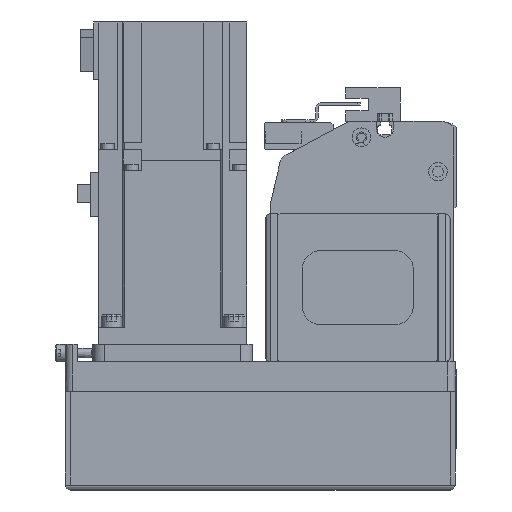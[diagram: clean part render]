
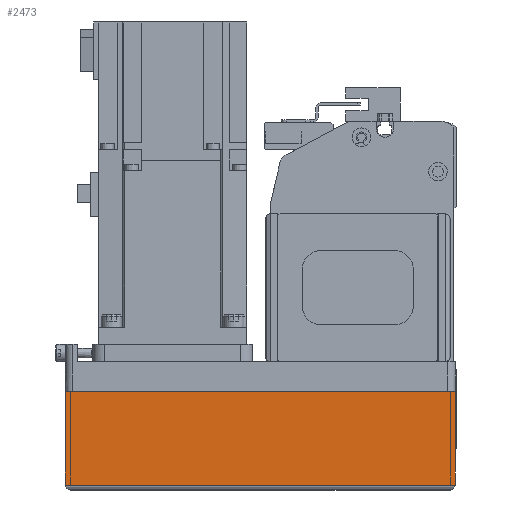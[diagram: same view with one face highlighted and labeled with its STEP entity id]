
A CAD part, left-side view. The second image highlights one B-rep face of the part: STEP entity #2473.
In plain terms, the highlighted planar face has unit normal (-1, 0, 0) as drawn and (0, -1, 0) by its records, which use the part's own axes.
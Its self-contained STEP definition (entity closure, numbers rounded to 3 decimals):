
#2473 = ADVANCED_FACE( '', ( #5541 ), #5542, .T. );
#5541 = FACE_OUTER_BOUND( '', #9220, .T. );
#5542 = PLANE( '', #9221 );
#9220 = EDGE_LOOP( '', ( #16332, #16333, #16334, #16335 ) );
#9221 = AXIS2_PLACEMENT_3D( '', #16336, #16337, #16338 );
#16332 = ORIENTED_EDGE( '', *, *, #23238, .F. );
#16333 = ORIENTED_EDGE( '', *, *, #23239, .F. );
#16334 = ORIENTED_EDGE( '', *, *, #23240, .T. );
#16335 = ORIENTED_EDGE( '', *, *, #22002, .T. );
#16336 = CARTESIAN_POINT( '', ( -158., -39., -12.1 ) );
#16337 = DIRECTION( '', ( 0., -1., 0. ) );
#16338 = DIRECTION( '', ( 0., 0., -1. ) );
#22002 = EDGE_CURVE( '', #26331, #26800, #26802, .T. );
#23238 = EDGE_CURVE( '', #27027, #26800, #28627, .T. );
#23239 = EDGE_CURVE( '', #28350, #27027, #28628, .T. );
#23240 = EDGE_CURVE( '', #28350, #26331, #28629, .T. );
#26331 = VERTEX_POINT( '', #33254 );
#26800 = VERTEX_POINT( '', #33957 );
#26802 = LINE( '', #33959, #33960 );
#27027 = VERTEX_POINT( '', #34265 );
#28350 = VERTEX_POINT( '', #36496 );
#28627 = LINE( '', #36895, #36896 );
#28628 = LINE( '', #36897, #36898 );
#28629 = LINE( '', #36899, #36900 );
#33254 = CARTESIAN_POINT( '', ( -158., -39., -50. ) );
#33957 = CARTESIAN_POINT( '', ( 0., -39., -50. ) );
#33959 = CARTESIAN_POINT( '', ( -158., -39., -50. ) );
#33960 = VECTOR( '', #40368, 1000. );
#34265 = CARTESIAN_POINT( '', ( 0., -39., -12.1 ) );
#36496 = CARTESIAN_POINT( '', ( -158., -39., -12.1 ) );
#36895 = CARTESIAN_POINT( '', ( 0., -39., -12.1 ) );
#36896 = VECTOR( '', #41900, 1000. );
#36897 = CARTESIAN_POINT( '', ( -158., -39., -12.1 ) );
#36898 = VECTOR( '', #41901, 1000. );
#36899 = CARTESIAN_POINT( '', ( -158., -39., -12.1 ) );
#36900 = VECTOR( '', #41902, 1000. );
#40368 = DIRECTION( '', ( 1., 0., 0. ) );
#41900 = DIRECTION( '', ( 0., 0., -1. ) );
#41901 = DIRECTION( '', ( 1., 0., 0. ) );
#41902 = DIRECTION( '', ( 0., 0., -1. ) );
